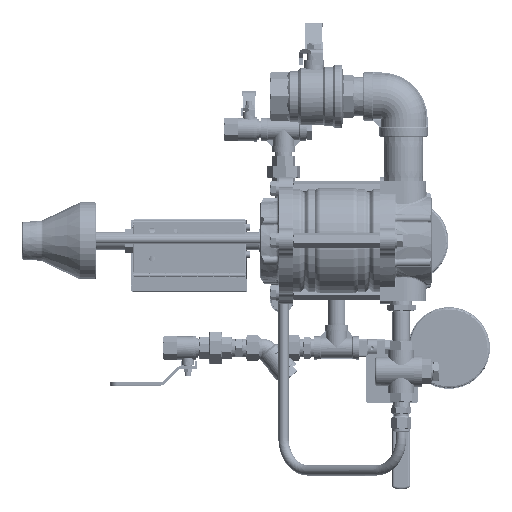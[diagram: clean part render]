
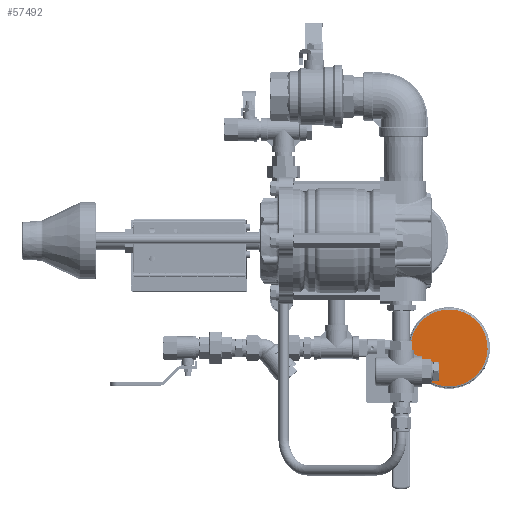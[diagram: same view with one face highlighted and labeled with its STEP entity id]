
A CAD part, top view. The second image highlights one B-rep face of the part: STEP entity #57492.
In plain terms, the highlighted planar face has unit normal (0, 0, 1) as drawn and (0, 0, -1) by its records, which use the part's own axes.
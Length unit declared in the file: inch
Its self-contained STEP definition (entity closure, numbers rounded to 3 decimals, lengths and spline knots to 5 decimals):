
#13608=PLANE('',#64091);
#17495=FACE_OUTER_BOUND('',#21792,.T.);
#21792=EDGE_LOOP('',(#49834));
#24423=CIRCLE('',#64078,47.5);
#29106=VERTEX_POINT('',#102724);
#36252=EDGE_CURVE('',#29106,#29106,#24423,.T.);
#49834=ORIENTED_EDGE('',*,*,#36252,.F.);
#57492=ADVANCED_FACE('',(#17495),#13608,.F.);
#64078=AXIS2_PLACEMENT_3D('',#102725,#76976,#76977);
#64091=AXIS2_PLACEMENT_3D('',#102744,#77002,#77003);
#76976=DIRECTION('center_axis',(0.,0.,1.));
#76977=DIRECTION('ref_axis',(1.,0.,0.));
#77002=DIRECTION('center_axis',(0.,0.,1.));
#77003=DIRECTION('ref_axis',(1.,0.,0.));
#102724=CARTESIAN_POINT('',(-47.5,0.,-49.));
#102725=CARTESIAN_POINT('Origin',(0.,0.,-49.));
#102744=CARTESIAN_POINT('Origin',(0.,0.,-49.));
